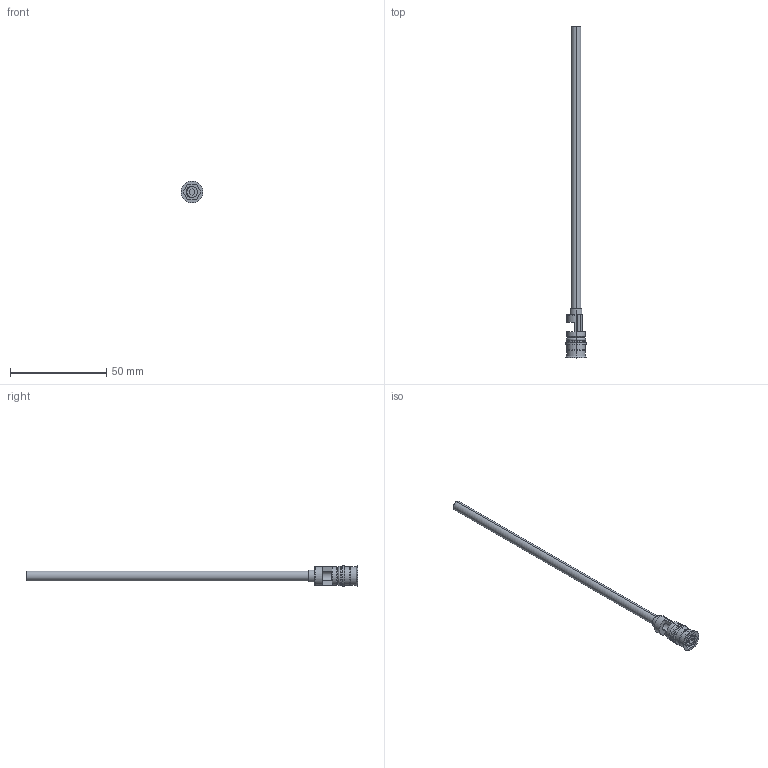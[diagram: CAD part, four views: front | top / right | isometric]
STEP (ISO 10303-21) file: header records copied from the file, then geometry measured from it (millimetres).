
FILE_DESCRIPTION (( 'STEP AP203' ), '1' );
FILE_NAME ('RF-10F_5 x150.STEP', '2015-11-20T08:29:03', ( 'Balzi' ), ( '' ), 'SwSTEP 2.0', 'SolidWorks 2015', '' );
FILE_SCHEMA (( 'CONFIG_CONTROL_DESIGN' ));
Length unit declared in the file: millimetre
Products named in the file (1): RF-10F_5 x150
Bounding box: 11.3 x 172.5 x 11.3 mm (x, y, z)
Volume: 1732.6 mm3; surface area: 5784.4 mm2
Topology: 1 solids, 1 shells, 71 faces, 164 edges, 102 vertices
Faces by surface type: plane 26, cylinder 25, cone 12, torus 8
Entity records: 2114 total; most frequent: DIRECTION 385, CARTESIAN_POINT 357, ORIENTED_EDGE 328, EDGE_CURVE 164, AXIS2_PLACEMENT_3D 154, VERTEX_POINT 102, CIRCLE 82, EDGE_LOOP 80
